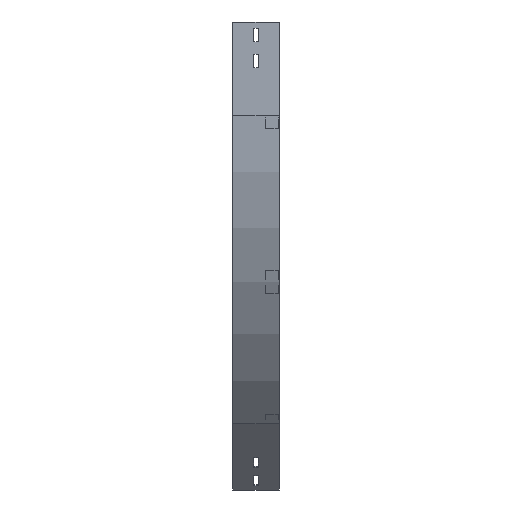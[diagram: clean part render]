
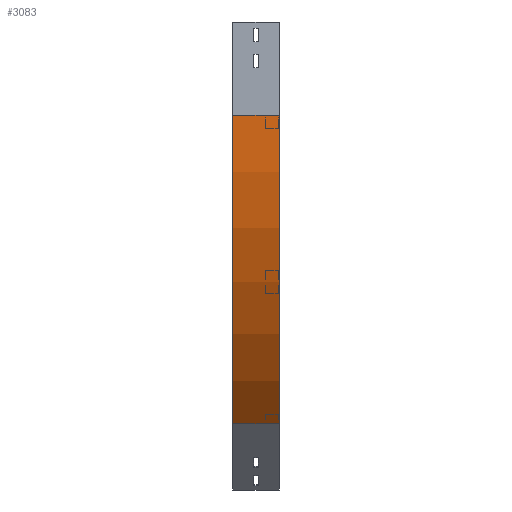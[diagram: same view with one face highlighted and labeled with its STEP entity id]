
A CAD part, left-side view. The second image highlights one B-rep face of the part: STEP entity #3083.
In plain terms, the highlighted cylindrical face has radius 700 mm (diameter 1400 mm), a partial arc.
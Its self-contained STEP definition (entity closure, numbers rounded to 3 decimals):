
#66 = CARTESIAN_POINT ( 'NONE',  ( 700., 75., -150. ) ) ;
#74 = DIRECTION ( 'NONE',  ( 0., 0., -1. ) ) ;
#81 = CARTESIAN_POINT ( 'NONE',  ( 0., 75., -150. ) ) ;
#578 = AXIS2_PLACEMENT_3D ( 'NONE', #66, #1197, #2353 ) ;
#639 = VECTOR ( 'NONE', #3815, 1000. ) ;
#702 = DIRECTION ( 'NONE',  ( 0., -1., 0. ) ) ;
#835 = CIRCLE ( 'NONE', #2482, 700. ) ;
#975 = EDGE_CURVE ( 'NONE', #2446, #1782, #835, .T. ) ;
#993 = AXIS2_PLACEMENT_3D ( 'NONE', #1226, #3655, #74 ) ;
#1121 = CARTESIAN_POINT ( 'NONE',  ( 0., 0., -150. ) ) ;
#1197 = DIRECTION ( 'NONE',  ( 0., -1., 0. ) ) ;
#1226 = CARTESIAN_POINT ( 'NONE',  ( 700., 0., -150. ) ) ;
#1253 = EDGE_CURVE ( 'NONE', #2844, #1925, #1745, .T. ) ;
#1337 = DIRECTION ( 'NONE',  ( -1., 0., 0. ) ) ;
#1339 = EDGE_LOOP ( 'NONE', ( #1352, #1362, #2072, #1393 ) ) ;
#1352 = ORIENTED_EDGE ( 'NONE', *, *, #975, .F. ) ;
#1362 = ORIENTED_EDGE ( 'NONE', *, *, #1537, .F. ) ;
#1393 = ORIENTED_EDGE ( 'NONE', *, *, #3130, .T. ) ;
#1432 = CARTESIAN_POINT ( 'NONE',  ( 0., 0., -150. ) ) ;
#1526 = FACE_OUTER_BOUND ( 'NONE', #1339, .T. ) ;
#1537 = EDGE_CURVE ( 'NONE', #2844, #2446, #3227, .T. ) ;
#1582 = CYLINDRICAL_SURFACE ( 'NONE', #993, 700. ) ;
#1613 = CARTESIAN_POINT ( 'NONE',  ( 700., 0., -150. ) ) ;
#1745 = CIRCLE ( 'NONE', #578, 700. ) ;
#1782 = VERTEX_POINT ( 'NONE', #2153 ) ;
#1925 = VERTEX_POINT ( 'NONE', #2934 ) ;
#2072 = ORIENTED_EDGE ( 'NONE', *, *, #1253, .T. ) ;
#2153 = CARTESIAN_POINT ( 'NONE',  ( 205.025, 0., -644.975 ) ) ;
#2248 = DIRECTION ( 'NONE',  ( 0., -1., 0. ) ) ;
#2353 = DIRECTION ( 'NONE',  ( -1., 0., 0. ) ) ;
#2446 = VERTEX_POINT ( 'NONE', #1432 ) ;
#2482 = AXIS2_PLACEMENT_3D ( 'NONE', #1613, #2248, #1337 ) ;
#2844 = VERTEX_POINT ( 'NONE', #81 ) ;
#2934 = CARTESIAN_POINT ( 'NONE',  ( 205.025, 75., -644.975 ) ) ;
#3044 = LINE ( 'NONE', #3319, #3157 ) ;
#3083 = ADVANCED_FACE ( 'NONE', ( #1526 ), #1582, .T. ) ;
#3130 = EDGE_CURVE ( 'NONE', #1925, #1782, #3044, .T. ) ;
#3157 = VECTOR ( 'NONE', #702, 1000. ) ;
#3227 = LINE ( 'NONE', #1121, #639 ) ;
#3319 = CARTESIAN_POINT ( 'NONE',  ( 205.025, 0., -644.975 ) ) ;
#3655 = DIRECTION ( 'NONE',  ( 0., -1., 0. ) ) ;
#3815 = DIRECTION ( 'NONE',  ( 0., -1., 0. ) ) ;
